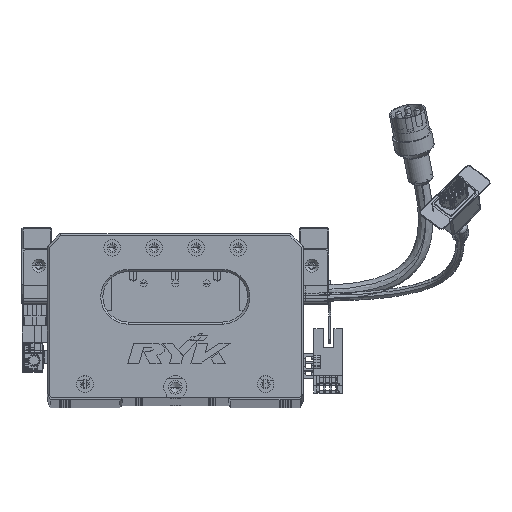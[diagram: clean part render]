
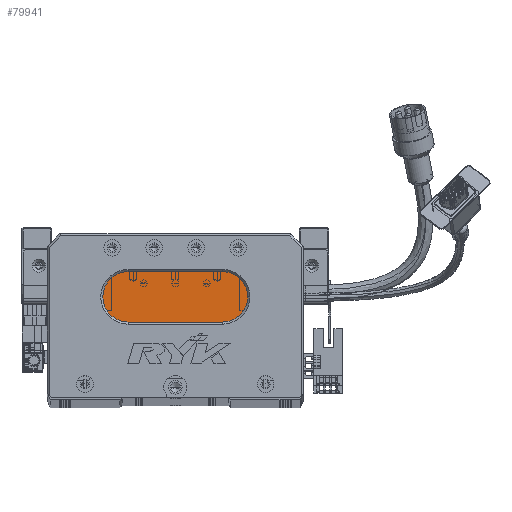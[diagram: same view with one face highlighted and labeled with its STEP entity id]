
A CAD part, top view. The second image highlights one B-rep face of the part: STEP entity #79941.
In plain terms, the highlighted planar face has unit normal (0, 0, 1) as drawn and (0, 0, -1) by its records, which use the part's own axes.
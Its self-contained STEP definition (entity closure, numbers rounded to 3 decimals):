
#3162 = DIRECTION ( 'NONE',  ( -1., 0., 0. ) ) ;
#5403 = CIRCLE ( 'NONE', #65643, 12. ) ;
#6198 = VERTEX_POINT ( 'NONE', #59553 ) ;
#6682 = ORIENTED_EDGE ( 'NONE', *, *, #83670, .T. ) ;
#7033 = LINE ( 'NONE', #93759, #97345 ) ;
#8444 = EDGE_CURVE ( 'NONE', #63926, #32391, #94914, .T. ) ;
#10407 = AXIS2_PLACEMENT_3D ( 'NONE', #24554, #50201, #59416 ) ;
#17378 = ORIENTED_EDGE ( 'NONE', *, *, #50556, .T. ) ;
#18114 = CARTESIAN_POINT ( 'NONE',  ( 38.5, 48., 13. ) ) ;
#19722 = VERTEX_POINT ( 'NONE', #78808 ) ;
#24089 = EDGE_LOOP ( 'NONE', ( #98465, #6682, #79959, #17378, #110031 ) ) ;
#24500 = AXIS2_PLACEMENT_3D ( 'NONE', #29771, #105821, #104736 ) ;
#24554 = CARTESIAN_POINT ( 'NONE',  ( 38.5, 48., 13. ) ) ;
#29771 = CARTESIAN_POINT ( 'NONE',  ( 83.5, 48., 13. ) ) ;
#32391 = VERTEX_POINT ( 'NONE', #73378 ) ;
#41153 = DIRECTION ( 'NONE',  ( -1., 0., 0. ) ) ;
#43406 = DIRECTION ( 'NONE',  ( -1., 0., 0. ) ) ;
#45537 = EDGE_CURVE ( 'NONE', #6198, #19722, #52298, .T. ) ;
#50201 = DIRECTION ( 'NONE',  ( 0., 0., -1. ) ) ;
#50556 = EDGE_CURVE ( 'NONE', #19722, #63926, #5403, .T. ) ;
#52298 = CIRCLE ( 'NONE', #10407, 12. ) ;
#52467 = CARTESIAN_POINT ( 'NONE',  ( 38.5, 60., 13. ) ) ;
#59416 = DIRECTION ( 'NONE',  ( -1., 0., 0. ) ) ;
#59553 = CARTESIAN_POINT ( 'NONE',  ( 38.5, 36., 13. ) ) ;
#63689 = CARTESIAN_POINT ( 'NONE',  ( 83.5, 60., 13. ) ) ;
#63926 = VERTEX_POINT ( 'NONE', #52467 ) ;
#65643 = AXIS2_PLACEMENT_3D ( 'NONE', #18114, #94256, #43406 ) ;
#66154 = AXIS2_PLACEMENT_3D ( 'NONE', #91992, #75288, #41153 ) ;
#68895 = CARTESIAN_POINT ( 'NONE',  ( 83.5, 36., 13. ) ) ;
#71151 = DIRECTION ( 'NONE',  ( 1., 0., 0. ) ) ;
#73378 = CARTESIAN_POINT ( 'NONE',  ( 83.5, 60., 13. ) ) ;
#74388 = VERTEX_POINT ( 'NONE', #68895 ) ;
#75288 = DIRECTION ( 'NONE',  ( 0., 0., -1. ) ) ;
#78808 = CARTESIAN_POINT ( 'NONE',  ( 26.5, 48., 13. ) ) ;
#79941 = ADVANCED_FACE ( 'NONE', ( #94214 ), #100136, .T. ) ;
#79959 = ORIENTED_EDGE ( 'NONE', *, *, #45537, .T. ) ;
#83670 = EDGE_CURVE ( 'NONE', #74388, #6198, #7033, .T. ) ;
#91992 = CARTESIAN_POINT ( 'NONE',  ( 83.5, 48., 13. ) ) ;
#92308 = EDGE_CURVE ( 'NONE', #32391, #74388, #106686, .T. ) ;
#93759 = CARTESIAN_POINT ( 'NONE',  ( 83.5, 36., 13. ) ) ;
#94214 = FACE_OUTER_BOUND ( 'NONE', #24089, .T. ) ;
#94256 = DIRECTION ( 'NONE',  ( 0., 0., -1. ) ) ;
#94914 = LINE ( 'NONE', #63689, #108158 ) ;
#97345 = VECTOR ( 'NONE', #3162, 1000. ) ;
#98465 = ORIENTED_EDGE ( 'NONE', *, *, #92308, .T. ) ;
#100136 = PLANE ( 'NONE',  #66154 ) ;
#104736 = DIRECTION ( 'NONE',  ( -1., 0., 0. ) ) ;
#105821 = DIRECTION ( 'NONE',  ( 0., 0., -1. ) ) ;
#106686 = CIRCLE ( 'NONE', #24500, 12. ) ;
#108158 = VECTOR ( 'NONE', #71151, 1000. ) ;
#110031 = ORIENTED_EDGE ( 'NONE', *, *, #8444, .T. ) ;
